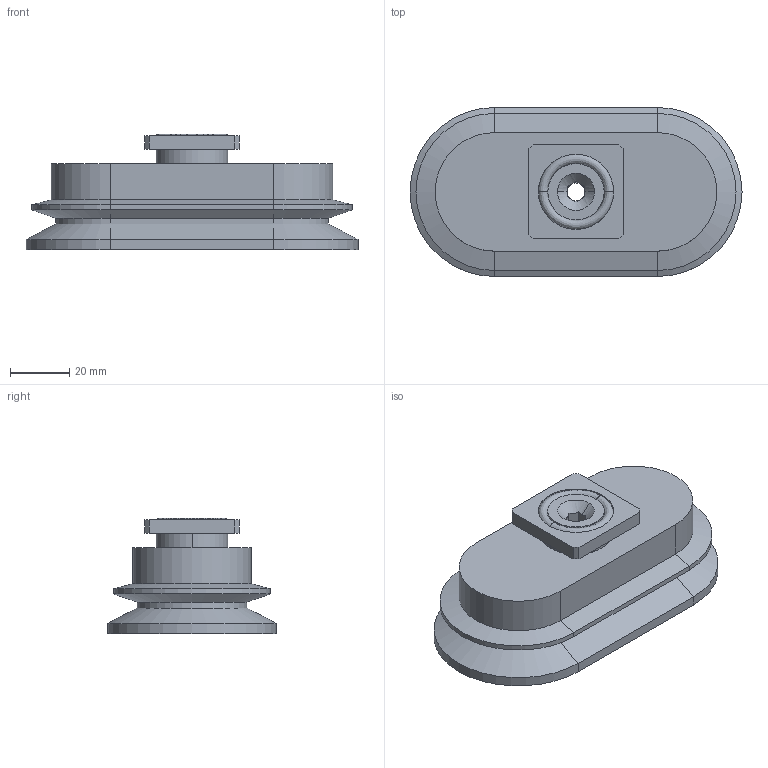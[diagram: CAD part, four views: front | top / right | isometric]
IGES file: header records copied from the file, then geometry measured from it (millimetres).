
Start section: 3D InterOp IGES (v. 2018 1.0.2), Spatial Corp. Copyright (c) 1999-2017.
Global section: file name: schmalz_10_01_06_00912_82i8i4xjf9jg7x4k483rcuz0u.igs; native system: Spatial Corp.; preprocessor: 3D InterOp ACIS/IGES; author: TraceParts; organization: TraceParts S.A.; date: 20181026.101343; units: millimetre
Bounding box: 112 x 57 x 38.9 mm (x, y, z)
Surface area: 26193.1 mm2 (no closed solid volume)
Topology: 0 solids, 0 shells, 80 faces, 352 edges, 352 vertices
Faces by surface type: extrusion 42, revolution 38
